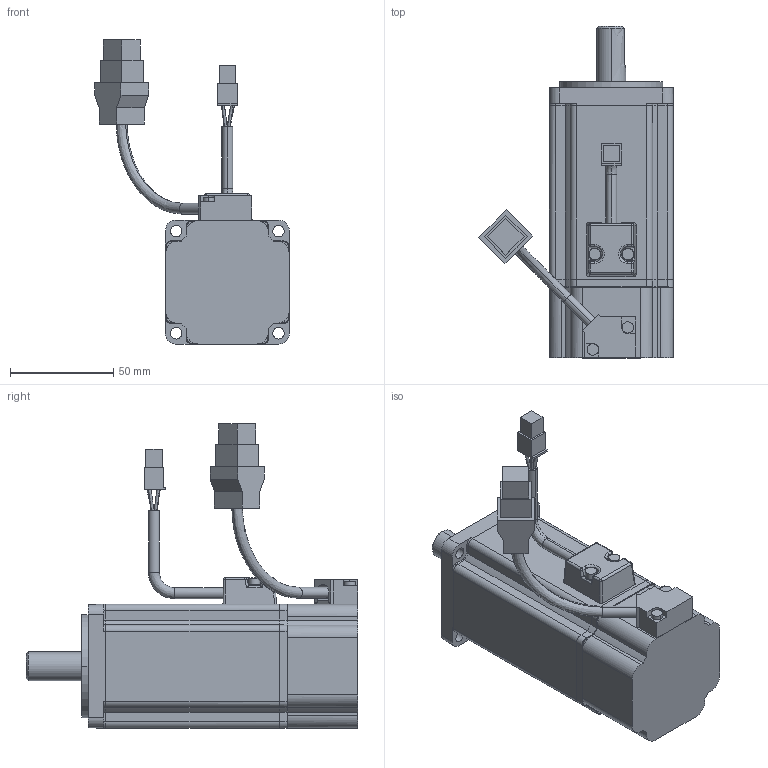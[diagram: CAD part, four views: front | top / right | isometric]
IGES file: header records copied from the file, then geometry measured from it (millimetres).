
Start section:  PTC IGES file: ECMA-CX0604RS.igs
Global section: file name: ECMA-CX0604RS.igs; native system: Pro/ENGINEER by Parametric Technology Corporation; preprocessor: 2010180; author: MIO.CHEN; organization: Unknown; date: 20160810.132115; units: millimetre
Bounding box: 94.24 x 160.7 x 147.37 mm (x, y, z)
Volume: 451025.5 mm3; surface area: 49747.9 mm2
Topology: 1 solids, 1 shells, 401 faces, 1012 edges, 632 vertices
Faces by surface type: bspline 203, revolution 198
